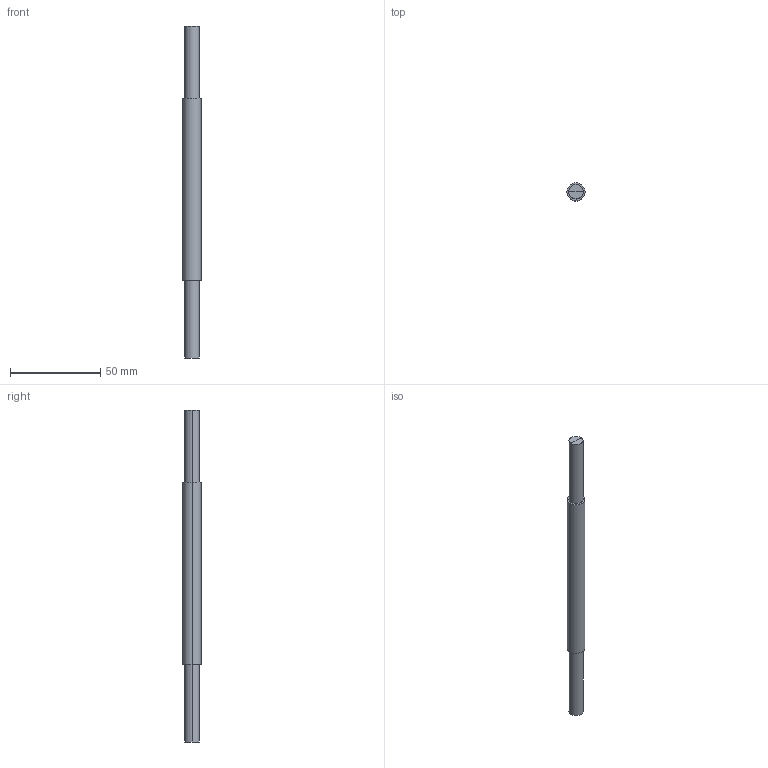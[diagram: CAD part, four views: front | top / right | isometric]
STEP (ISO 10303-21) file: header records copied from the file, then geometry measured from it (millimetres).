
FILE_DESCRIPTION(('BendCAD AP242 PMI export'),'2;1');
FILE_NAME('bendcad.step','',('BendCAD'),('BendCAD'),'BendCAD','BendCAD','');
FILE_SCHEMA(('AP242_MANAGED_MODEL_BASED_3D_ENGINEERING_MIM_LF'));
Length unit declared in the file: millimetre
Products named in the file (1): BENDCAD
Bounding box: 10 x 10 x 184 mm (x, y, z)
Volume: 12104.6 mm3; surface area: 5416.1 mm2
Topology: 1 solids, 1 shells, 14 faces, 26 edges, 14 vertices
Faces by surface type: plane 8, cylinder 6
Entity records: 356 total; most frequent: DIRECTION 68, ORIENTED_EDGE 52, CARTESIAN_POINT 41, AXIS2_PLACEMENT_3D 27, EDGE_CURVE 26, VECTOR 14, LINE 14, VERTEX_POINT 14
